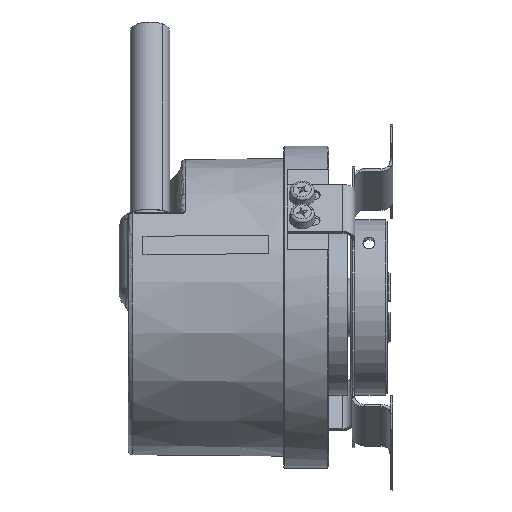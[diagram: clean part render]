
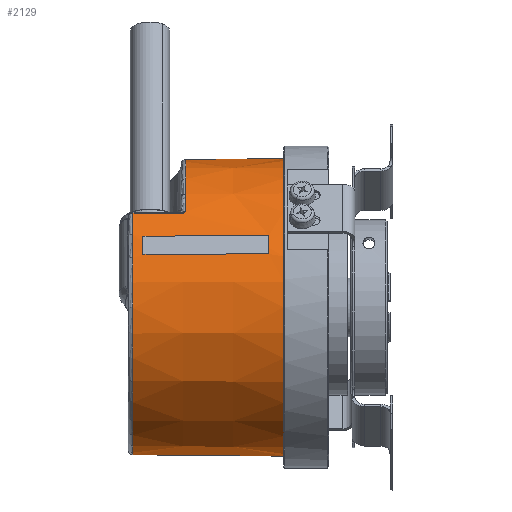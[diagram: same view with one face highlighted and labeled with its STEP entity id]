
A CAD part, front view. The second image highlights one B-rep face of the part: STEP entity #2129.
In plain terms, the highlighted conical face has half-angle 0.5 degrees and reference radius 25.4 mm.
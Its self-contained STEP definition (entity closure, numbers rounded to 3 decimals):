
#1959 = VERTEX_POINT ( 'NONE', #5858 ) ;
#1991 = EDGE_LOOP ( 'NONE', ( #2151, #2144, #2176, #2243, #2048, #2051, #2174 ) ) ;
#2021 = EDGE_CURVE ( 'NONE', #1959, #2037, #6000, .T. ) ;
#2032 = EDGE_CURVE ( 'NONE', #2207, #2106, #6056, .T. ) ;
#2037 = VERTEX_POINT ( 'NONE', #6153 ) ;
#2048 = ORIENTED_EDGE ( 'NONE', *, *, #2706, .T. ) ;
#2051 = ORIENTED_EDGE ( 'NONE', *, *, #2032, .T. ) ;
#2052 = EDGE_LOOP ( 'NONE', ( #2175, #2241, #2238, #2239 ) ) ;
#2060 = VERTEX_POINT ( 'NONE', #6147 ) ;
#2086 = EDGE_CURVE ( 'NONE', #1959, #2060, #6487, .T. ) ;
#2106 = VERTEX_POINT ( 'NONE', #6492 ) ;
#2125 = EDGE_CURVE ( 'NONE', #2251, #2126, #6360, .T. ) ;
#2126 = VERTEX_POINT ( 'NONE', #6359 ) ;
#2129 = ADVANCED_FACE ( 'NONE', ( #6445, #6444 ), #6429, .T. ) ;
#2144 = ORIENTED_EDGE ( 'NONE', *, *, #2086, .T. ) ;
#2151 = ORIENTED_EDGE ( 'NONE', *, *, #2021, .F. ) ;
#2167 = EDGE_CURVE ( 'NONE', #2168, #2250, #6524, .T. ) ;
#2168 = VERTEX_POINT ( 'NONE', #6668 ) ;
#2174 = ORIENTED_EDGE ( 'NONE', *, *, #2240, .F. ) ;
#2175 = ORIENTED_EDGE ( 'NONE', *, *, #2167, .F. ) ;
#2176 = ORIENTED_EDGE ( 'NONE', *, *, #2234, .T. ) ;
#2206 = EDGE_CURVE ( 'NONE', #2250, #2251, #6758, .T. ) ;
#2207 = VERTEX_POINT ( 'NONE', #6749 ) ;
#2234 = EDGE_CURVE ( 'NONE', #2060, #2639, #6834, .T. ) ;
#2238 = ORIENTED_EDGE ( 'NONE', *, *, #2125, .F. ) ;
#2239 = ORIENTED_EDGE ( 'NONE', *, *, #2206, .F. ) ;
#2240 = EDGE_CURVE ( 'NONE', #2037, #2106, #6819, .T. ) ;
#2241 = ORIENTED_EDGE ( 'NONE', *, *, #2242, .T. ) ;
#2242 = EDGE_CURVE ( 'NONE', #2168, #2126, #6814, .T. ) ;
#2243 = ORIENTED_EDGE ( 'NONE', *, *, #2642, .T. ) ;
#2250 = VERTEX_POINT ( 'NONE', #6693 ) ;
#2251 = VERTEX_POINT ( 'NONE', #6687 ) ;
#2639 = VERTEX_POINT ( 'NONE', #12507 ) ;
#2642 = EDGE_CURVE ( 'NONE', #2639, #2704, #12527, .T. ) ;
#2704 = VERTEX_POINT ( 'NONE', #13089 ) ;
#2706 = EDGE_CURVE ( 'NONE', #2704, #2207, #13078, .T. ) ;
#5858 = CARTESIAN_POINT ( 'NONE',  ( -11.207, 0., 25.254 ) ) ;
#6000 = LINE ( 'NONE', #6023, #6022 ) ;
#6021 = DIRECTION ( 'NONE',  ( 1., 0., 0.009 ) ) ;
#6022 = VECTOR ( 'NONE', #6021, 1000. ) ;
#6023 = CARTESIAN_POINT ( 'NONE',  ( 5.5, 0., 25.4 ) ) ;
#6053 = DIRECTION ( 'NONE',  ( 1., 0., -0.009 ) ) ;
#6054 = VECTOR ( 'NONE', #6053, 1000. ) ;
#6055 = CARTESIAN_POINT ( 'NONE',  ( 5.5, 0., -25.4 ) ) ;
#6056 = LINE ( 'NONE', #6055, #6054 ) ;
#6147 = CARTESIAN_POINT ( 'NONE',  ( -11.207, -19.272, 16.321 ) ) ;
#6153 = CARTESIAN_POINT ( 'NONE',  ( 5.5, 0., 25.4 ) ) ;
#6344 = DIRECTION ( 'NONE',  ( 0., 0., -1. ) ) ;
#6357 = CARTESIAN_POINT ( 'NONE',  ( 3., -22.222, 12.257 ) ) ;
#6359 = CARTESIAN_POINT ( 'NONE',  ( -18.5, -22.055, 12.172 ) ) ;
#6360 = B_SPLINE_CURVE_WITH_KNOTS ( 'NONE', 3,
 ( #6357, #6454, #6453, #6452, #6451, #6450, #6449 ),
 .UNSPECIFIED., .F., .F.,
 ( 4, 3, 4 ),
 ( 0.003, 0.022, 0.025 ),
 .UNSPECIFIED. ) ;
#6416 = DIRECTION ( 'NONE',  ( 0., 0., 1. ) ) ;
#6425 = DIRECTION ( 'NONE',  ( 1., 0., 0. ) ) ;
#6426 = CARTESIAN_POINT ( 'NONE',  ( 5.5, 0., 0. ) ) ;
#6427 = AXIS2_PLACEMENT_3D ( 'NONE', #6426, #6425, #6344 ) ;
#6429 = CONICAL_SURFACE ( 'NONE', #6427, 25.4, 0.009 ) ;
#6444 = FACE_BOUND ( 'NONE', #2052, .T. ) ;
#6445 = FACE_OUTER_BOUND ( 'NONE', #1991, .T. ) ;
#6449 = CARTESIAN_POINT ( 'NONE',  ( -18.5, -22.055, 12.172 ) ) ;
#6450 = CARTESIAN_POINT ( 'NONE',  ( -17.603, -22.061, 12.176 ) ) ;
#6451 = CARTESIAN_POINT ( 'NONE',  ( -16.707, -22.068, 12.179 ) ) ;
#6452 = CARTESIAN_POINT ( 'NONE',  ( -15.81, -22.075, 12.183 ) ) ;
#6453 = CARTESIAN_POINT ( 'NONE',  ( -9.54, -22.124, 12.208 ) ) ;
#6454 = CARTESIAN_POINT ( 'NONE',  ( -3.27, -22.173, 12.232 ) ) ;
#6484 = DIRECTION ( 'NONE',  ( 1., 0., 0. ) ) ;
#6485 = CARTESIAN_POINT ( 'NONE',  ( -11.207, 0., 0. ) ) ;
#6486 = AXIS2_PLACEMENT_3D ( 'NONE', #6485, #6484, #6416 ) ;
#6487 = CIRCLE ( 'NONE', #6486, 25.254 ) ;
#6492 = CARTESIAN_POINT ( 'NONE',  ( 5.5, 0., -25.4 ) ) ;
#6524 = B_SPLINE_CURVE_WITH_KNOTS ( 'NONE', 3,
 ( #6663, #6662, #6661, #6660, #6659, #6658, #6657 ),
 .UNSPECIFIED., .F., .F.,
 ( 4, 3, 4 ),
 ( 0.019, 0.022, 0.041 ),
 .UNSPECIFIED. ) ;
#6657 = CARTESIAN_POINT ( 'NONE',  ( 3., -23.674, 9.144 ) ) ;
#6658 = CARTESIAN_POINT ( 'NONE',  ( -3.271, -23.623, 9.123 ) ) ;
#6659 = CARTESIAN_POINT ( 'NONE',  ( -9.541, -23.573, 9.101 ) ) ;
#6660 = CARTESIAN_POINT ( 'NONE',  ( -15.812, -23.522, 9.08 ) ) ;
#6661 = CARTESIAN_POINT ( 'NONE',  ( -16.708, -23.515, 9.077 ) ) ;
#6662 = CARTESIAN_POINT ( 'NONE',  ( -17.604, -23.508, 9.074 ) ) ;
#6663 = CARTESIAN_POINT ( 'NONE',  ( -18.5, -23.501, 9.071 ) ) ;
#6668 = CARTESIAN_POINT ( 'NONE',  ( -18.5, -23.501, 9.071 ) ) ;
#6687 = CARTESIAN_POINT ( 'NONE',  ( 3., -22.222, 12.257 ) ) ;
#6693 = CARTESIAN_POINT ( 'NONE',  ( 3., -23.674, 9.144 ) ) ;
#6749 = CARTESIAN_POINT ( 'NONE',  ( -20.207, 0., -25.176 ) ) ;
#6750 = DIRECTION ( 'NONE',  ( 0., 0., -1. ) ) ;
#6751 = DIRECTION ( 'NONE',  ( -1., 0., 0. ) ) ;
#6752 = CARTESIAN_POINT ( 'NONE',  ( 3., 0., 0. ) ) ;
#6753 = AXIS2_PLACEMENT_3D ( 'NONE', #6752, #6751, #6750 ) ;
#6758 = CIRCLE ( 'NONE', #6753, 25.378 ) ;
#6810 = DIRECTION ( 'NONE',  ( 0., 0., -1. ) ) ;
#6811 = DIRECTION ( 'NONE',  ( -1., 0., 0. ) ) ;
#6812 = CARTESIAN_POINT ( 'NONE',  ( -18.5, 0., 0. ) ) ;
#6813 = AXIS2_PLACEMENT_3D ( 'NONE', #6812, #6811, #6810 ) ;
#6814 = CIRCLE ( 'NONE', #6813, 25.191 ) ;
#6815 = DIRECTION ( 'NONE',  ( 0., 0., -1. ) ) ;
#6816 = DIRECTION ( 'NONE',  ( 1., 0., 0. ) ) ;
#6817 = CARTESIAN_POINT ( 'NONE',  ( 5.5, 0., 0. ) ) ;
#6818 = AXIS2_PLACEMENT_3D ( 'NONE', #6817, #6816, #6815 ) ;
#6819 = CIRCLE ( 'NONE', #6818, 25.4 ) ;
#6827 = CARTESIAN_POINT ( 'NONE',  ( -11.918, -19.463, 16.083 ) ) ;
#6828 = CARTESIAN_POINT ( 'NONE',  ( -11.785, -19.464, 16.083 ) ) ;
#6829 = CARTESIAN_POINT ( 'NONE',  ( -11.656, -19.442, 16.111 ) ) ;
#6830 = CARTESIAN_POINT ( 'NONE',  ( -11.418, -19.373, 16.198 ) ) ;
#6831 = CARTESIAN_POINT ( 'NONE',  ( -11.31, -19.325, 16.257 ) ) ;
#6832 = CARTESIAN_POINT ( 'NONE',  ( -11.207, -19.272, 16.321 ) ) ;
#6834 = B_SPLINE_CURVE_WITH_KNOTS ( 'NONE', 3,
 ( #6832, #6831, #6830, #6829, #6828, #6827 ),
 .UNSPECIFIED., .F., .F.,
 ( 4, 2, 4 ),
 ( 0., 0., 0.001 ),
 .UNSPECIFIED. ) ;
#12507 = CARTESIAN_POINT ( 'NONE',  ( -11.918, -19.463, 16.083 ) ) ;
#12522 = CARTESIAN_POINT ( 'NONE',  ( -12.052, -19.462, 16.082 ) ) ;
#12523 = CARTESIAN_POINT ( 'NONE',  ( -11.918, -19.463, 16.083 ) ) ;
#12527 = B_SPLINE_CURVE_WITH_KNOTS ( 'NONE', 3,
 ( #12523, #12522, #12660, #12659, #12658, #12657, #12656, #12655, #12654, #12653 ),
 .UNSPECIFIED., .F., .F.,
 ( 4, 3, 3, 4 ),
 ( 0., 0., 0.002, 0.008 ),
 .UNSPECIFIED. ) ;
#12653 = CARTESIAN_POINT ( 'NONE',  ( -20.207, -19.395, 16.051 ) ) ;
#12654 = CARTESIAN_POINT ( 'NONE',  ( -18.111, -19.412, 16.059 ) ) ;
#12655 = CARTESIAN_POINT ( 'NONE',  ( -16.015, -19.43, 16.067 ) ) ;
#12656 = CARTESIAN_POINT ( 'NONE',  ( -13.918, -19.447, 16.075 ) ) ;
#12657 = CARTESIAN_POINT ( 'NONE',  ( -13.385, -19.451, 16.077 ) ) ;
#12658 = CARTESIAN_POINT ( 'NONE',  ( -12.852, -19.455, 16.079 ) ) ;
#12659 = CARTESIAN_POINT ( 'NONE',  ( -12.318, -19.46, 16.081 ) ) ;
#12660 = CARTESIAN_POINT ( 'NONE',  ( -12.185, -19.461, 16.082 ) ) ;
#13074 = DIRECTION ( 'NONE',  ( 0., 0., -1. ) ) ;
#13075 = DIRECTION ( 'NONE',  ( 1., 0., 0. ) ) ;
#13076 = CARTESIAN_POINT ( 'NONE',  ( -20.207, 0., 0. ) ) ;
#13077 = AXIS2_PLACEMENT_3D ( 'NONE', #13076, #13075, #13074 ) ;
#13078 = CIRCLE ( 'NONE', #13077, 25.176 ) ;
#13089 = CARTESIAN_POINT ( 'NONE',  ( -20.207, -19.395, 16.051 ) ) ;
